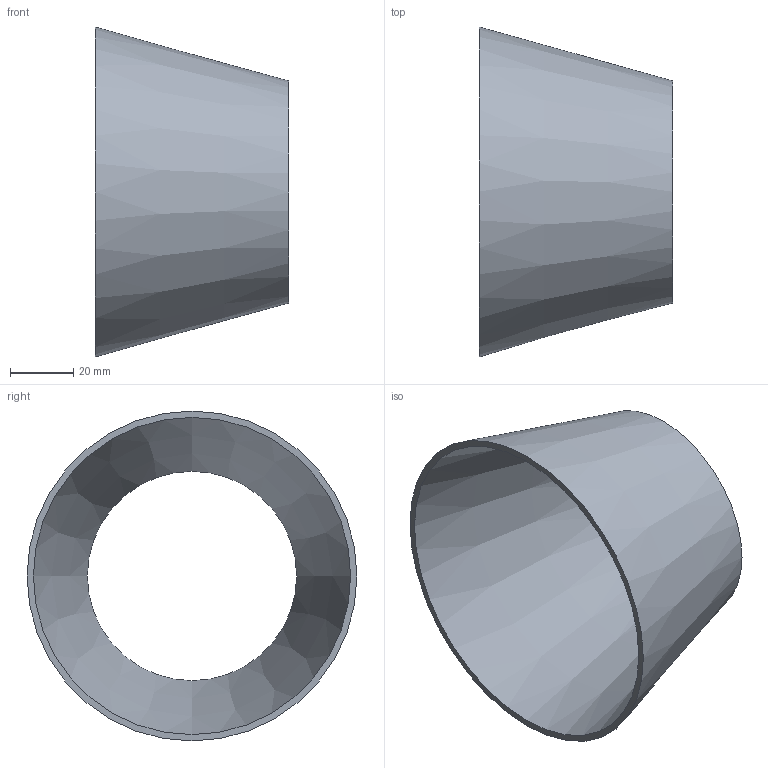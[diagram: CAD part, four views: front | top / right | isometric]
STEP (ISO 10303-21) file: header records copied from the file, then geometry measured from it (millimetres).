
FILE_DESCRIPTION(('FreeCAD Model'),'2;1');
FILE_NAME( '/home/martin/Documents/proyect/accesorios/stp/red-con_DN100-65.step', '2017-12-31T12:23:47',('Author'),(''), 'Open CASCADE STEP processor 6.8','FreeCAD','Unknown');
FILE_SCHEMA(('AUTOMOTIVE_DESIGN_CC2 { 1 2 10303 214 -1 1 5 4 }'));
Length unit declared in the file: millimetre
Products named in the file (1): red-con_DN100-65
Bounding box: 61 x 104 x 104 mm (x, y, z)
Volume: 32578.3 mm3; surface area: 34887.9 mm2
Topology: 1 solids, 1 shells, 4 faces, 6 edges, 4 vertices
Faces by surface type: cone 2, plane 2
Entity records: 191 total; most frequent: CARTESIAN_POINT 33, DIRECTION 26, ORIENTED_EDGE 12, PCURVE 12, DEFINITIONAL_REPRESENTATION 12, AXIS2_PLACEMENT_3D 9, CIRCLE 8, FACE_BOUND 6
